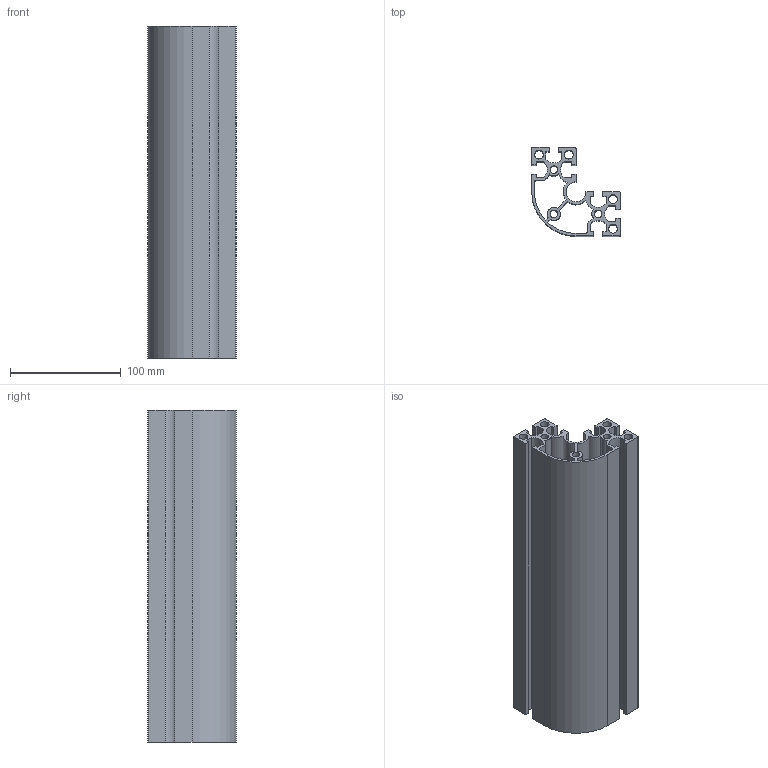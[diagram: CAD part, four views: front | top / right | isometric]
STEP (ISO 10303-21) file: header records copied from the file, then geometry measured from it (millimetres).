
FILE_DESCRIPTION (( 'STEP AP203' ), '1' );
FILE_NAME ('41-CG-8840R-8.STEP', '2015-07-07T03:54:33', ( '' ), ( '' ), 'SwSTEP 2.0', 'SolidWorks 2013', '' );
FILE_SCHEMA (( 'CONFIG_CONTROL_DESIGN' ));
Length unit declared in the file: millimetre
Products named in the file (1): 41-CG-8840R-8
Bounding box: 80 x 80 x 300 mm (x, y, z)
Volume: 429284.2 mm3; surface area: 287887.8 mm2
Topology: 1 solids, 1 shells, 104 faces, 306 edges, 204 vertices
Faces by surface type: plane 58, cylinder 46
Entity records: 3595 total; most frequent: CARTESIAN_POINT 615, ORIENTED_EDGE 612, DIRECTION 608, EDGE_CURVE 306, VECTOR 214, LINE 214, VERTEX_POINT 204, AXIS2_PLACEMENT_3D 197
